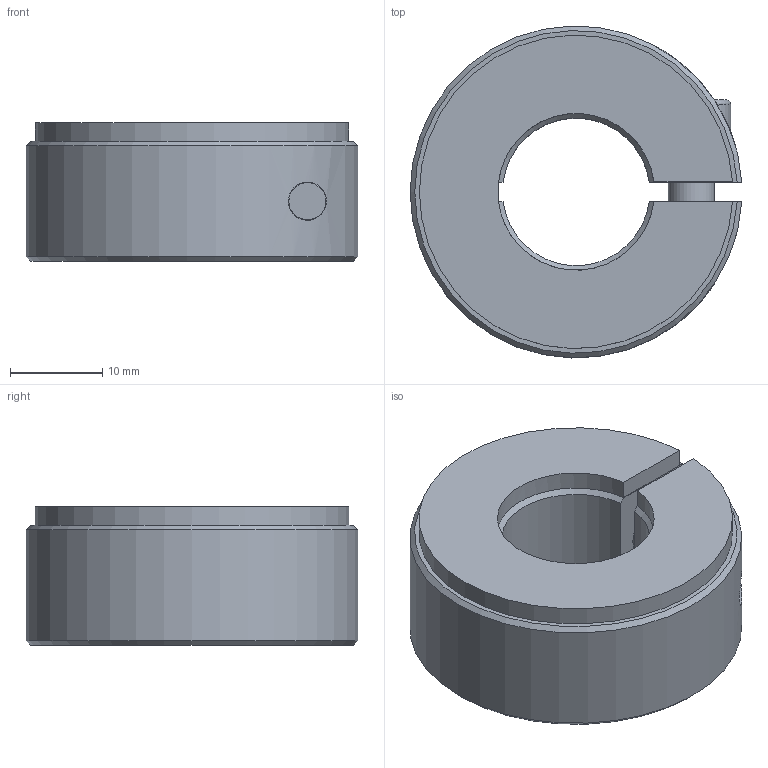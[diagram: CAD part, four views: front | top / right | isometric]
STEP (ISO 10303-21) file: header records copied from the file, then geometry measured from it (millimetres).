
FILE_DESCRIPTION( ( 'STEP AP203' ), '1' );
FILE_NAME( 'C:/Temp/Ganter_Step_05_03_2020/data/3_2/gn7062_3/Semi-split Stainless Steel-Set collar GN 7062.3-36-B16-NI.stp', '2020-03-13T05:40:24', ( 'License CC BY-ND 4.0' ), ( 'CADENAS' ), ' ', 'PARTsolutions', ' ' );
FILE_SCHEMA( ( 'CONFIG_CONTROL_DESIGN' ) );
Length unit declared in the file: millimetre
Products named in the file (1): _Semi-split Stainless Steel-Set collar GN 7062.3-36-B16-NI
Bounding box: 35.97 x 35.98 x 15 mm (x, y, z)
Volume: 11216.4 mm3; surface area: 4816.9 mm2
Topology: 1 solids, 1 shells, 40 faces, 95 edges, 62 vertices
Faces by surface type: plane 21, cylinder 11, cone 7, torus 1
Full cylindrical faces by diameter (mm): 4.134 x1, 5 x1, 5.4 x1, 8.5 x1, 9 x1
Entity records: 1282 total; most frequent: CARTESIAN_POINT 345, DIRECTION 184, ORIENTED_EDGE 172, EDGE_CURVE 86, AXIS2_PLACEMENT_3D 71, VERTEX_POINT 60, EDGE_LOOP 54, FACE_OUTER_BOUND 46
